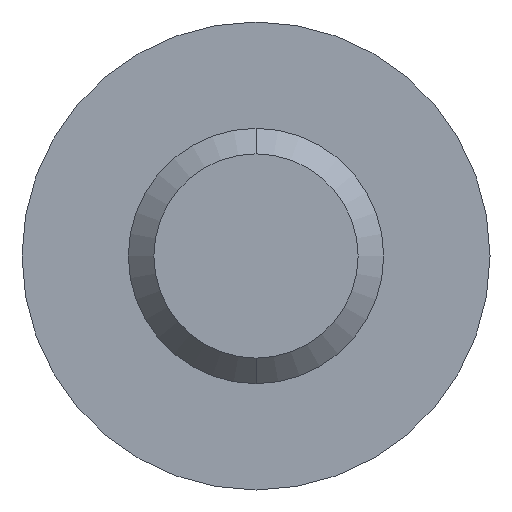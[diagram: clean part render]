
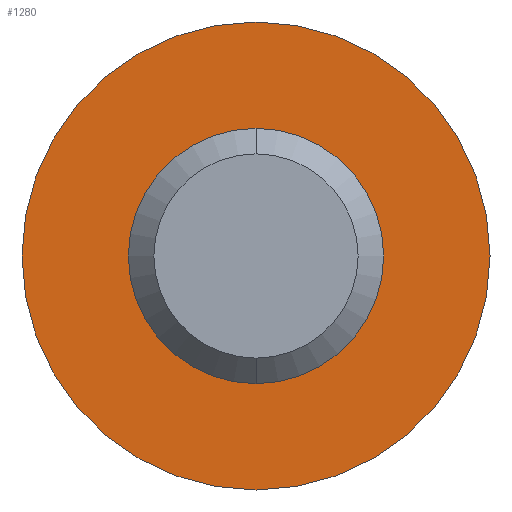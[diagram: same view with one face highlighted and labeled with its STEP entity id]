
A CAD part, front view. The second image highlights one B-rep face of the part: STEP entity #1280.
In plain terms, the highlighted planar face has unit normal (0, -1, 0).
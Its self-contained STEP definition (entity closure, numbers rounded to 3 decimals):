
#452=CARTESIAN_POINT('',(0.,3.,0.));
#453=DIRECTION('',(0.,-1.,0.));
#454=DIRECTION('',(1.,0.,0.));
#455=AXIS2_PLACEMENT_3D('',#452,#453,#454);
#460=CARTESIAN_POINT('',(0.,3.,0.));
#461=DIRECTION('',(0.,-1.,0.));
#462=DIRECTION('',(-1.,0.,0.));
#463=AXIS2_PLACEMENT_3D('',#460,#461,#462);
#483=CARTESIAN_POINT('',(0.,3.,0.));
#484=DIRECTION('',(0.,1.,0.));
#485=DIRECTION('',(0.,0.,-1.));
#486=AXIS2_PLACEMENT_3D('',#483,#484,#485);
#974=CARTESIAN_POINT('',(0.,3.,0.));
#975=DIRECTION('',(0.,-1.,0.));
#976=DIRECTION('',(0.,0.,-1.));
#977=AXIS2_PLACEMENT_3D('',#974,#975,#976);
#1093=CARTESIAN_POINT('',(0.,3.,-2.75));
#1094=CARTESIAN_POINT('',(0.,3.,2.75));
#1095=VERTEX_POINT('',#1093);
#1096=VERTEX_POINT('',#1094);
#1125=CARTESIAN_POINT('',(1.5,3.,0.));
#1126=CARTESIAN_POINT('',(-1.5,3.,0.));
#1127=VERTEX_POINT('',#1125);
#1128=VERTEX_POINT('',#1126);
#1264=CARTESIAN_POINT('',(0.,3.,0.));
#1265=DIRECTION('',(0.,-1.,0.));
#1266=DIRECTION('',(0.,0.,1.));
#1267=AXIS2_PLACEMENT_3D('',#1264,#1265,#1266);
#1268=PLANE('',#1267);
#1270=ORIENTED_EDGE('',*,*,#1269,.T.);
#1272=ORIENTED_EDGE('',*,*,#1271,.F.);
#1273=EDGE_LOOP('',(#1270,#1272));
#1274=FACE_OUTER_BOUND('',#1273,.F.);
#1276=ORIENTED_EDGE('',*,*,#1275,.T.);
#1277=ORIENTED_EDGE('',*,*,#1254,.T.);
#1278=EDGE_LOOP('',(#1276,#1277));
#1279=FACE_BOUND('',#1278,.F.);
#1280=ADVANCED_FACE('',(#1274,#1279),#1268,.T.);
#456=CIRCLE('',#455,1.5);
#464=CIRCLE('',#463,1.5);
#487=CIRCLE('',#486,2.75);
#978=CIRCLE('',#977,2.75);
#1254=EDGE_CURVE('',#1128,#1127,#464,.T.);
#1269=EDGE_CURVE('',#1095,#1096,#487,.T.);
#1271=EDGE_CURVE('',#1095,#1096,#978,.T.);
#1275=EDGE_CURVE('',#1127,#1128,#456,.T.);
